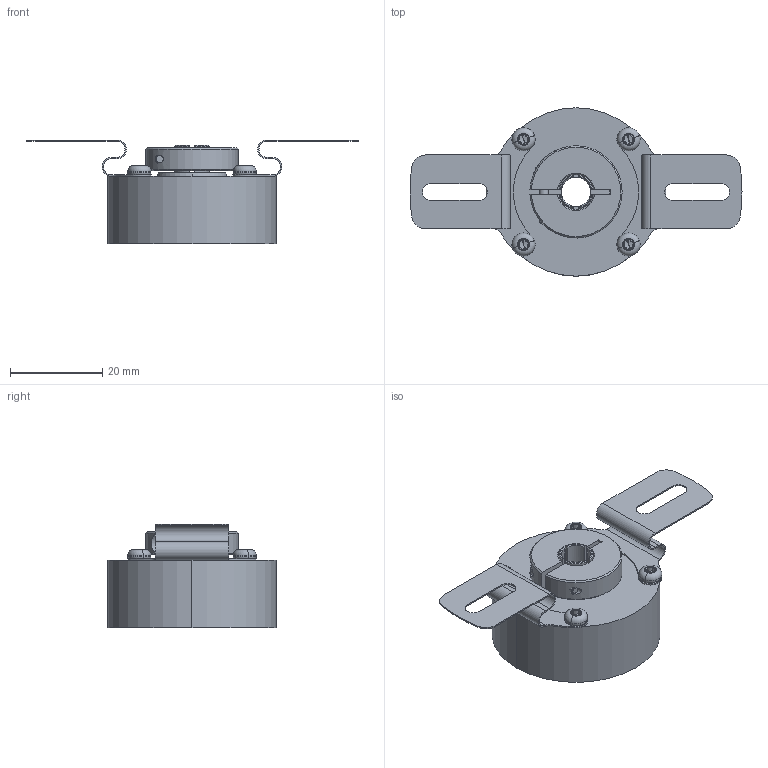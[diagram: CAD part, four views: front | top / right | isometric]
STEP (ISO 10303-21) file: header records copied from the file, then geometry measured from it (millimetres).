
FILE_DESCRIPTION (( 'STEP AP214' ), '1' );
FILE_NAME ('drawing-ucd-krbd-q3a-n.STEP', '2017-02-23T12:13:02', ( '' ), ( '' ), 'SwSTEP 2.0', 'SolidWorks 2015', '' );
FILE_SCHEMA (( 'AUTOMOTIVE_DESIGN' ));
Length unit declared in the file: millimetre
Products named in the file (1): drawing-ucd-krbd-q3a-n
Bounding box: 72 x 36.5 x 22.55 mm (x, y, z)
Volume: 14264 mm3; surface area: 18171.1 mm2
Topology: 30 solids, 31 shells, 596 faces, 1462 edges, 895 vertices
Faces by surface type: cylinder 177, cone 157, plane 140, bspline 78, torus 44
Entity records: 27277 total; most frequent: CARTESIAN_POINT 6543, DIRECTION 3078, ORIENTED_EDGE 2808, EDGE_CURVE 1404, AXIS2_PLACEMENT_3D 1330, VERTEX_POINT 895, CIRCLE 811, EDGE_LOOP 663
